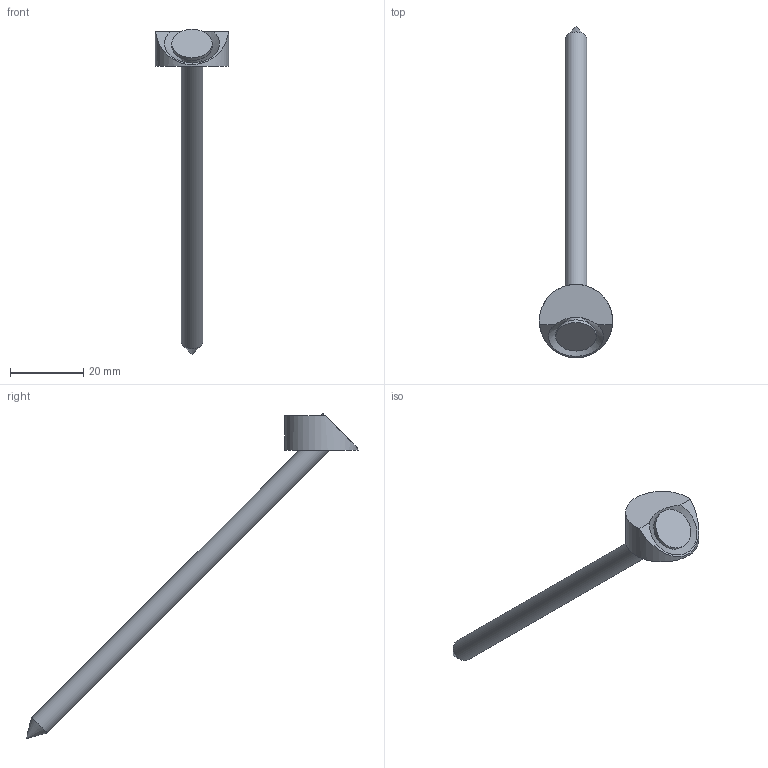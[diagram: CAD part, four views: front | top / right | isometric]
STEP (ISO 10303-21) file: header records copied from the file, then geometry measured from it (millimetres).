
FILE_DESCRIPTION(/* description */ ('Unknown'),/* implementation_level */ '2;1');
FILE_NAME(/* name */ 'T-Joint 20_SK 6x120',/* time_stamp */ '2020-07-13T09:53:56+02:00',/* author */ ('Unknown'),/* organization */ ('Unknown'),/* preprocessor_version */ 'ST-DEVELOPER v16.7',/* originating_system */ 'DEX',/* authorisation */ $);
FILE_SCHEMA (('AUTOMOTIVE_DESIGN {1 0 10303 214 3 1 1}'));
Length unit declared in the file: millimetre
Products named in the file (3): T-Joint 20_SK 6x120; Rundzylinderscheibe_8er_Schraube_45_V3; SK_Schraube_6x120
Assembly tree (2 placements, depth 2):
  T-Joint 20_SK 6x120
    Rundzylinderscheibe_8er_Schraube_45_V3
    SK_Schraube_6x120
Bounding box: 20 x 90.56 x 88.74 mm (x, y, z)
Volume: 5274.9 mm3; surface area: 3545.1 mm2
Topology: 2 solids, 2 shells, 11 faces, 24 edges, 15 vertices
Faces by surface type: plane 4, cylinder 4, cone 3
Full cylindrical faces by diameter (mm): 6 x1, 8 x1, 11 x1, 20 x1
Entity records: 321 total; most frequent: DIRECTION 50, CARTESIAN_POINT 45, ORIENTED_EDGE 26, AXIS2_PLACEMENT_3D 24, FACE_BOUND 19, EDGE_LOOP 18, EDGE_CURVE 13, VERTEX_POINT 12
